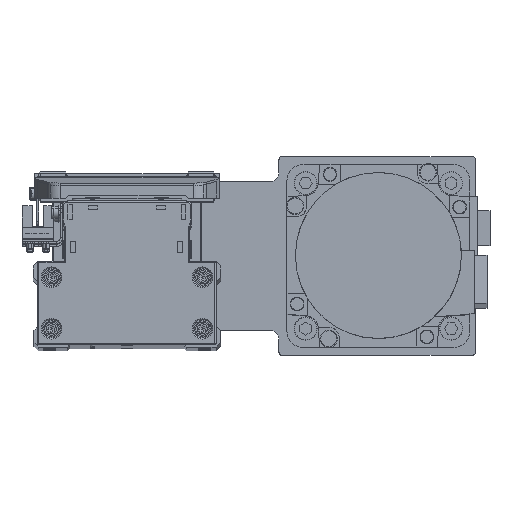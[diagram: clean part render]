
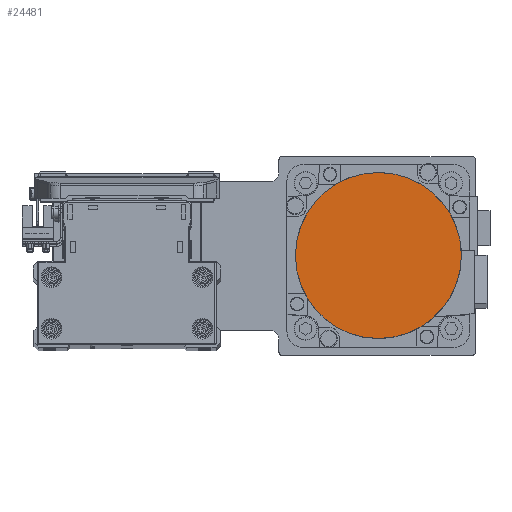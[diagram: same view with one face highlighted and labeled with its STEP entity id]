
A CAD part, top view. The second image highlights one B-rep face of the part: STEP entity #24481.
In plain terms, the highlighted planar face has unit normal (0, 0, 1) as drawn and (0, 0, -1) by its records, which use the part's own axes.
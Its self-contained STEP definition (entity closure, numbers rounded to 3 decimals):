
#53 = AXIS2_PLACEMENT_3D ( 'NONE', #39431, #11729, #24064 ) ;
#107 = VERTEX_POINT ( 'NONE', #36565 ) ;
#3309 = DIRECTION ( 'NONE',  ( 0., 0., 1. ) ) ;
#6342 = FACE_OUTER_BOUND ( 'NONE', #36801, .T. ) ;
#6460 = AXIS2_PLACEMENT_3D ( 'NONE', #35852, #8151, #20490 ) ;
#7692 = EDGE_CURVE ( 'NONE', #23317, #107, #17480, .T. ) ;
#8151 = DIRECTION ( 'NONE',  ( 0., 0., 1. ) ) ;
#11443 = CARTESIAN_POINT ( 'NONE',  ( 0., -36.3, -122.2 ) ) ;
#11729 = DIRECTION ( 'NONE',  ( 0., 0., 1. ) ) ;
#15641 = DIRECTION ( 'NONE',  ( 1., 0., 0. ) ) ;
#17480 = CIRCLE ( 'NONE', #53, 36.3 ) ;
#18679 = PLANE ( 'NONE',  #37912 ) ;
#20483 = EDGE_CURVE ( 'NONE', #107, #23317, #23893, .T. ) ;
#20490 = DIRECTION ( 'NONE',  ( 0., 1., 0. ) ) ;
#23317 = VERTEX_POINT ( 'NONE', #11443 ) ;
#23893 = CIRCLE ( 'NONE', #6460, 36.3 ) ;
#24064 = DIRECTION ( 'NONE',  ( 0., -1., 0. ) ) ;
#24481 = ADVANCED_FACE ( 'NONE', ( #6342 ), #18679, .F. ) ;
#29495 = ORIENTED_EDGE ( 'NONE', *, *, #20483, .F. ) ;
#30997 = CARTESIAN_POINT ( 'NONE',  ( 0., 0., -122.2 ) ) ;
#35852 = CARTESIAN_POINT ( 'NONE',  ( 0., 0., -122.2 ) ) ;
#36160 = ORIENTED_EDGE ( 'NONE', *, *, #7692, .F. ) ;
#36565 = CARTESIAN_POINT ( 'NONE',  ( 0., 36.3, -122.2 ) ) ;
#36801 = EDGE_LOOP ( 'NONE', ( #29495, #36160 ) ) ;
#37912 = AXIS2_PLACEMENT_3D ( 'NONE', #30997, #3309, #15641 ) ;
#39431 = CARTESIAN_POINT ( 'NONE',  ( 0., 0., -122.2 ) ) ;
